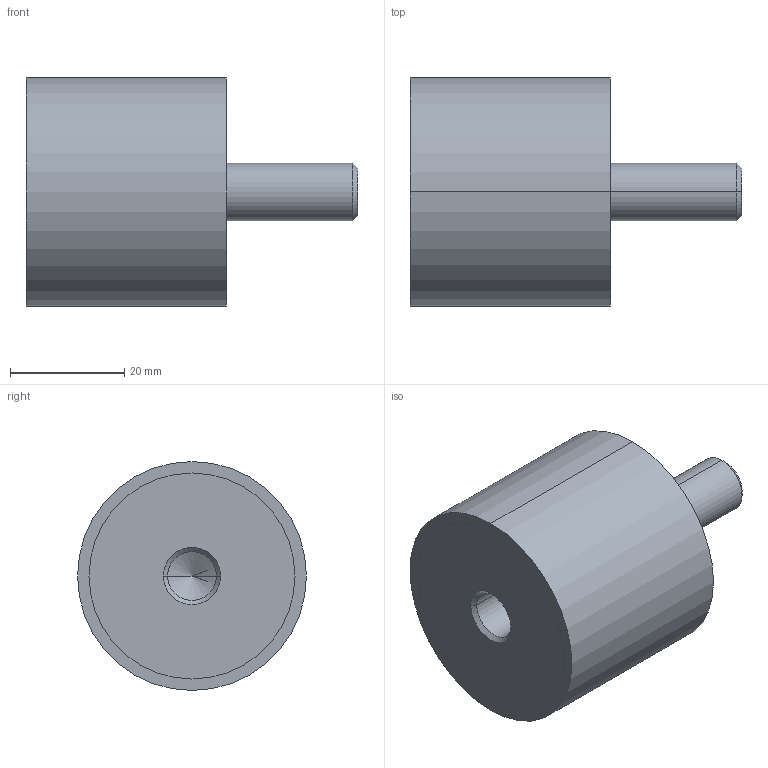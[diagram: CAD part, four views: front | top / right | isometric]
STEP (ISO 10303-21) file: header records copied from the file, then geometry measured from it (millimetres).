
FILE_DESCRIPTION (( 'STEP AP214' ), '1' );
FILE_NAME ('351-40-35-M10-ES-40.step', '2025-07-23T09:58:43', ( '' ), ( '' ), 'SwSTEP 2.0', 'SolidWorks 2022', '' );
FILE_SCHEMA (( 'AUTOMOTIVE_DESIGN' ));
Length unit declared in the file: millimetre
Products named in the file (1): 351-40-35-M10-ES-40
Bounding box: 58 x 40 x 40 mm (x, y, z)
Volume: 45182.1 mm3; surface area: 7860.7 mm2
Topology: 1 solids, 1 shells, 24 faces, 48 edges, 29 vertices
Faces by surface type: cylinder 12, cone 6, plane 6
Entity records: 740 total; most frequent: DIRECTION 124, CARTESIAN_POINT 100, ORIENTED_EDGE 92, AXIS2_PLACEMENT_3D 53, EDGE_CURVE 46, VERTEX_POINT 29, EDGE_LOOP 29, CIRCLE 28
